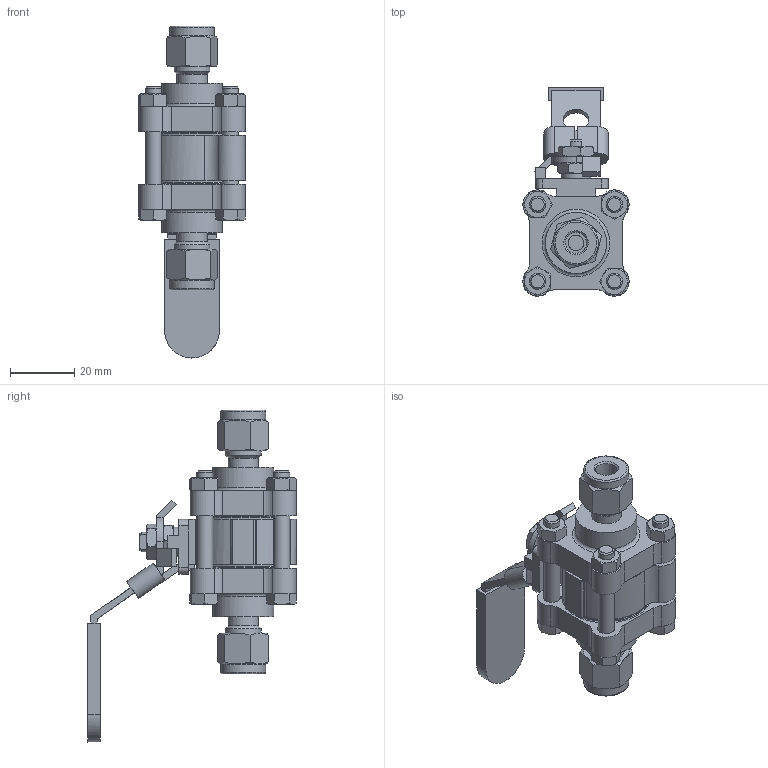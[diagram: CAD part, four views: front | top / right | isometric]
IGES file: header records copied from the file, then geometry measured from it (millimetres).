
Global section: file name: SWB3201-S4; native system: Autodesk Inventor 2016; preprocessor: unknown; author: DESIGNPC2; date: 20160502.103957; units: millimetre
Bounding box: 33.14 x 64.98 x 103.24 mm (x, y, z)
Volume: 40695 mm3; surface area: 24514.1 mm2
Topology: 17 solids, 17 shells, 812 faces, 2060 edges, 1347 vertices
Faces by surface type: bspline 812
